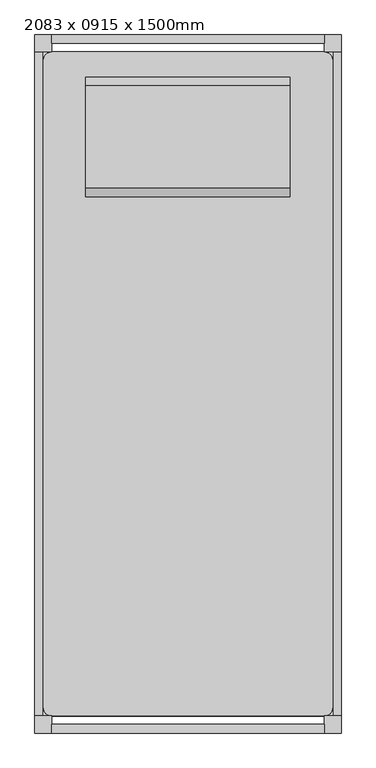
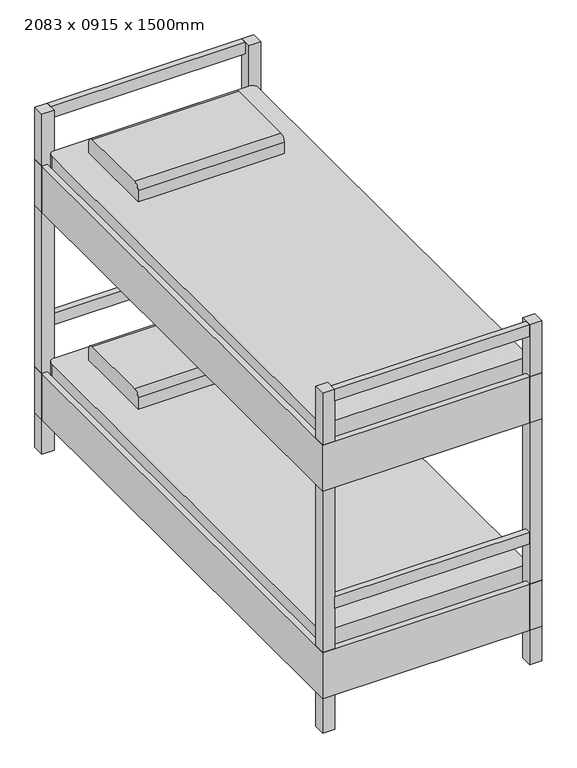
"""IFC4 building model written with IfcOpenShell, lengths in millimetres: furniture geometry, M_Bed-Bunk : 2083 x 0915 x 1500mm."""

from ifc_helpers import new_model, si_unit, point, frame, frame_2d, origin, origin_with_axes, place, context, project, spatial, polyline, circle_curve, trimmed, segment, composite_curve, outline, extrude, source, transform, mapped, element, save


def furniture_2083_x_0915_x_1500mm_284f08cc(model_context):
    return source(origin(), model_context, "Body", "SweptSolid", [
        extrude(outline(composite_curve([segment(polyline([(523.5065574, 406.4), (167.9065574, 406.4), (167.9065574, 457.2)]), True, "CONTINUOUS"), segment(trimmed(circle_curve(frame_2d((193.3065574, 457.2)), 25.4), [point((167.9065574, 457.2))], [point((193.3065574, 482.6))], False, "CARTESIAN"), True, "CONTINUOUS"), segment(polyline([(193.3065574, 482.6), (498.1065574, 482.6)]), True, "CONTINUOUS"), segment(trimmed(circle_curve(frame_2d((498.1065574, 457.2)), 25.4), [point((498.1065574, 482.6))], [point((523.5065574, 457.2))], False, "CARTESIAN"), True, "CONTINUOUS"), segment(polyline([(523.5065574, 457.2), (523.5065574, 406.4)]), True, "CONTINUOUS")], self_intersect=False)), frame((103.3819672, 0.0, 0.0), z_axis=(1.0, 0.0, 0.0), x_axis=(0.0, 1.0, 0.0)), (0.0, 0.0, 1.0), 610.2),
        extrude(outline(composite_curve([segment(polyline([(523.5065574, 1320.8), (167.9065574, 1320.8), (167.9065574, 1371.6)]), True, "CONTINUOUS"), segment(trimmed(circle_curve(frame_2d((193.3065574, 1371.6)), 25.4), [point((167.9065574, 1371.6))], [point((193.3065574, 1397.0))], False, "CARTESIAN"), True, "CONTINUOUS"), segment(polyline([(193.3065574, 1397.0), (498.1065574, 1397.0)]), True, "CONTINUOUS"), segment(trimmed(circle_curve(frame_2d((498.1065574, 1371.6)), 25.4), [point((498.1065574, 1397.0))], [point((523.5065574, 1371.6))], False, "CARTESIAN"), True, "CONTINUOUS"), segment(polyline([(523.5065574, 1371.6), (523.5065574, 1320.8)]), True, "CONTINUOUS")], self_intersect=False)), frame((103.3819672, 0.0, 0.0), z_axis=(1.0, 0.0, 0.0), x_axis=(0.0, 1.0, 0.0)), (0.0, 0.0, 1.0), 610.2),
        extrude(outline(polyline([(815.1819672, -1432.4934426), (1.7819672, -1432.4934426), (1.7819672, -1407.0934426), (815.1819672, -1407.0934426), (815.1819672, -1432.4934426)])), frame((0.0, 0.0, 533.4), z_axis=(0.0, 0.0, 1.0), x_axis=(1.0, 0.0, 0.0)), (0.0, 0.0, 1.0), 50.8),
        extrude(outline(polyline([(815.1819672, 650.5065574), (815.1819672, 625.1065574), (1.7819672, 625.1065574), (1.7819672, 650.5065574), (815.1819672, 650.5065574)])), frame((0.0, 0.0, 533.4), z_axis=(0.0, 0.0, 1.0), x_axis=(1.0, 0.0, 0.0)), (0.0, 0.0, 1.0), 50.8),
        extrude(outline(polyline([(815.1819672, 650.5065574), (815.1819672, 625.1065574), (1.7819672, 625.1065574), (1.7819672, 650.5065574), (815.1819672, 650.5065574)])), frame((0.0, 0.0, 1449.2), z_axis=(0.0, 0.0, 1.0), x_axis=(1.0, 0.0, 0.0)), (0.0, 0.0, 1.0), 50.8),
        extrude(outline(polyline([(815.1819672, -1432.4934426), (1.7819672, -1432.4934426), (1.7819672, -1407.0934426), (815.1819672, -1407.0934426), (815.1819672, -1432.4934426)])), frame((0.0, 0.0, 1449.2), z_axis=(0.0, 0.0, 1.0), x_axis=(1.0, 0.0, 0.0)), (0.0, 0.0, 1.0), 50.8),
        extrude(outline(composite_curve([segment(trimmed(circle_curve(frame_2d((815.1819672, 574.3065574)), 25.4), [point((815.1819672, 599.7065574))], [point((840.5819672, 574.3065574))], False, "CARTESIAN"), True, "CONTINUOUS"), segment(polyline([(840.5819672, 574.3065574), (840.5819672, -1356.2934426)]), True, "CONTINUOUS"), segment(trimmed(circle_curve(frame_2d((815.1819672, -1356.2934426)), 25.4), [point((840.5819672, -1356.2934426))], [point((815.1819672, -1381.6934426))], False, "CARTESIAN"), True, "CONTINUOUS"), segment(polyline([(815.1819672, -1381.6934426), (1.7819672, -1381.6934426)]), True, "CONTINUOUS"), segment(trimmed(circle_curve(frame_2d((1.7819672, -1356.2934426)), 25.4), [point((1.7819672, -1381.6934426))], [point((-23.6180328, -1356.2934426))], False, "CARTESIAN"), True, "CONTINUOUS"), segment(polyline([(-23.6180328, -1356.2934426), (-23.6180328, 574.3065574)]), True, "CONTINUOUS"), segment(trimmed(circle_curve(frame_2d((1.7819672, 574.3065574)), 25.4), [point((-23.6180328, 574.3065574))], [point((1.7819672, 599.7065574))], False, "CARTESIAN"), True, "CONTINUOUS"), segment(polyline([(1.7819672, 599.7065574), (815.1819672, 599.7065574)]), True, "CONTINUOUS")], self_intersect=False)), frame((0.0, 0.0, 1119.0), z_axis=(0.0, 0.0, 1.0), x_axis=(1.0, 0.0, 0.0)), (0.0, 0.0, 1.0), 203.2),
        extrude(outline(composite_curve([segment(trimmed(circle_curve(frame_2d((815.1819672, 574.3065574)), 25.4), [point((815.1819672, 599.7065574))], [point((840.5819672, 574.3065574))], False, "CARTESIAN"), True, "CONTINUOUS"), segment(polyline([(840.5819672, 574.3065574), (840.5819672, -1356.2934426)]), True, "CONTINUOUS"), segment(trimmed(circle_curve(frame_2d((815.1819672, -1356.2934426)), 25.4), [point((840.5819672, -1356.2934426))], [point((815.1819672, -1381.6934426))], False, "CARTESIAN"), True, "CONTINUOUS"), segment(polyline([(815.1819672, -1381.6934426), (1.7819672, -1381.6934426)]), True, "CONTINUOUS"), segment(trimmed(circle_curve(frame_2d((1.7819672, -1356.2934426)), 25.4), [point((1.7819672, -1381.6934426))], [point((-23.6180328, -1356.2934426))], False, "CARTESIAN"), True, "CONTINUOUS"), segment(polyline([(-23.6180328, -1356.2934426), (-23.6180328, 574.3065574)]), True, "CONTINUOUS"), segment(trimmed(circle_curve(frame_2d((1.7819672, 574.3065574)), 25.4), [point((-23.6180328, 574.3065574))], [point((1.7819672, 599.7065574))], False, "CARTESIAN"), True, "CONTINUOUS"), segment(polyline([(1.7819672, 599.7065574), (815.1819672, 599.7065574)]), True, "CONTINUOUS")], self_intersect=False)), frame((0.0, 0.0, 203.2), z_axis=(0.0, 0.0, 1.0), x_axis=(1.0, 0.0, 0.0)), (0.0, 0.0, 1.0), 203.2),
        extrude(outline(polyline([(-49.0180328, -1432.4934426), (-49.0180328, 650.5065574), (865.9819672, 650.5065574), (865.9819672, -1432.4934426), (-49.0180328, -1432.4934426)]), holes=[polyline([(-23.6180328, 625.1065574), (-23.6180328, -1407.0934426), (840.5819672, -1407.0934426), (840.5819672, 625.1065574), (-23.6180328, 625.1065574)])]), frame((0.0, 0.0, 1068.2), z_axis=(0.0, 0.0, 1.0), x_axis=(1.0, 0.0, 0.0)), (0.0, 0.0, 1.0), 203.2),
        extrude(outline(polyline([(865.9819672, 650.5065574), (865.9819672, -1432.4934426), (-49.0180328, -1432.4934426), (-49.0180328, 650.5065574), (865.9819672, 650.5065574)]), holes=[polyline([(840.5819672, 625.1065574), (-23.6180328, 625.1065574), (-23.6180328, -1407.0934426), (840.5819672, -1407.0934426), (840.5819672, 625.1065574)])]), frame((0.0, 0.0, 152.4), z_axis=(0.0, 0.0, 1.0), x_axis=(1.0, 0.0, 0.0)), (0.0, 0.0, 1.0), 203.2),
        extrude(outline(polyline([(1.7819672, 650.5065574), (1.7819672, 599.7065574), (-49.0180328, 599.7065574), (-49.0180328, 650.5065574), (1.7819672, 650.5065574)])), origin_with_axes(), (0.0, 0.0, 1.0), 1500.0),
        extrude(outline(polyline([(815.1819672, 650.5065574), (865.9819672, 650.5065574), (865.9819672, 599.7065574), (815.1819672, 599.7065574), (815.1819672, 650.5065574)])), origin_with_axes(), (0.0, 0.0, 1.0), 1500.0),
        extrude(outline(polyline([(1.7819672, -1432.4934426), (-49.0180328, -1432.4934426), (-49.0180328, -1381.6934426), (1.7819672, -1381.6934426), (1.7819672, -1432.4934426)])), origin_with_axes(), (0.0, 0.0, 1.0), 1500.0),
        extrude(outline(polyline([(815.1819672, -1432.4934426), (815.1819672, -1381.6934426), (865.9819672, -1381.6934426), (865.9819672, -1432.4934426), (815.1819672, -1432.4934426)])), origin_with_axes(), (0.0, 0.0, 1.0), 1500.0),
    ])


if __name__ == "__main__":
    model = new_model("IFC4")
    model_context = context("Model", 3, world=origin())
    ifc_project = project(units=[si_unit("LENGTHUNIT", "METRE", prefix="MILLI")], contexts=[model_context])
    site = spatial("IfcSite", under=ifc_project)
    building = spatial("IfcBuilding", under=site)
    placement = place(None, origin())
    furniture_2083_x_0915_x_1500mm_shape = furniture_2083_x_0915_x_1500mm_284f08cc(model_context)
    element("IfcFurniture", 1, ObjectType="M_Bed-Bunk : 2083 x 0915 x 1500mm", at=placement, inside=building, context=model_context, shape_type="MappedRepresentation", body=[
        mapped(furniture_2083_x_0915_x_1500mm_shape, transform((0.0, 0.0, 0.0), x_axis=(1.0, 0.0, 0.0), y_axis=(0.0, 1.0, 0.0), z_axis=(0.0, 0.0, 1.0))),
    ])
    save(model, "model.ifc")
